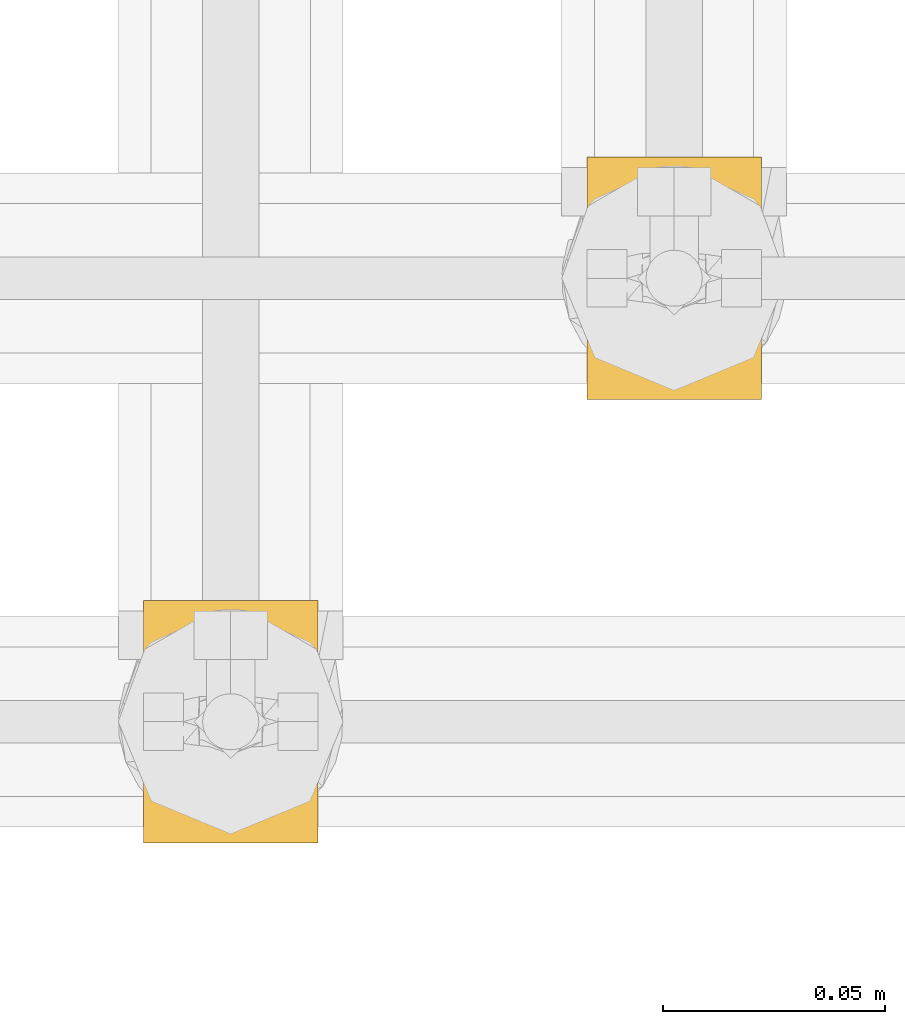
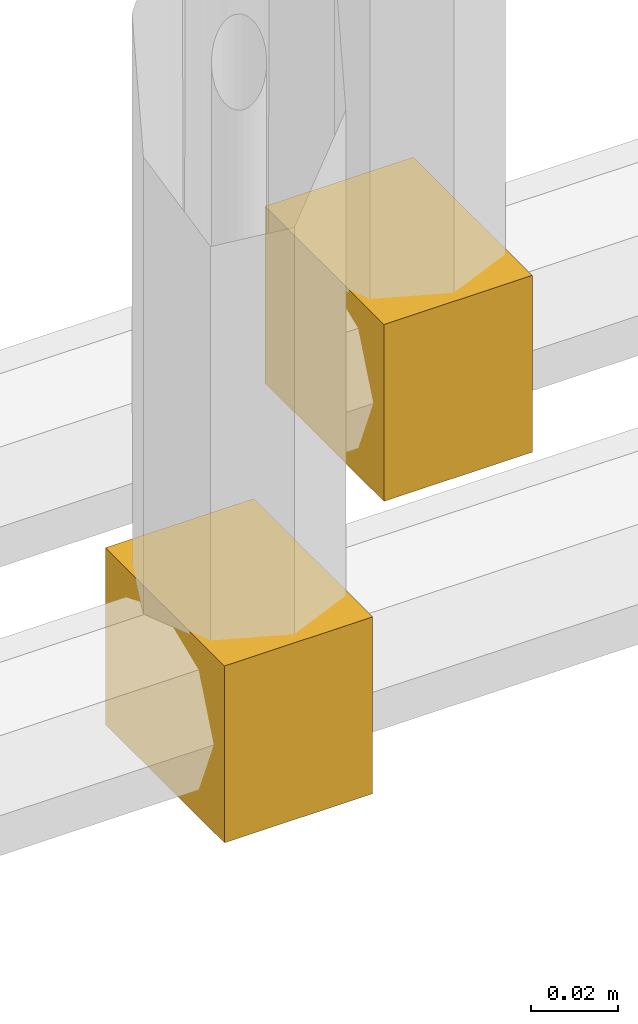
# One storey, part 71 of 652: 2 coverings.
"""IFC2X3 building model written with IfcOpenShell, lengths in millimetres."""

from ifc_helpers import new_model, entity, si_unit, converted_unit, direction, frame, frame_2d, origin, place, context, subcontext, project, spatial, rectangle, extrude, material, type_object, element, save


model = new_model("IFC2X3")

# Units and contexts
model_context = context("Model", 3, precision=0.01, world=frame((0.0, 0.0, 308426.39999999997)), true_north=direction((6.123233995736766e-17, 1.0)))
plan_context = context("Plan", 3, precision=0.01, world=frame((0.0, 0.0, 308426.39999999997)), true_north=direction((6.123233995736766e-17, 1.0)))
body_context = subcontext(model_context, "Body", "Model", "MODEL_VIEW")
ifc_project = project(units=[si_unit("LENGTHUNIT", "METRE", prefix="MILLI"), si_unit("AREAUNIT", "SQUARE_METRE"), si_unit("VOLUMEUNIT", "CUBIC_METRE"), converted_unit("PLANEANGLEUNIT", "DEGREE", entity("IfcPlaneAngleMeasure", 0.017453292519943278), si_unit("PLANEANGLEUNIT", "RADIAN"), dimensions=[0, 0, 0, 0, 0, 0, 0])], contexts=[model_context, plan_context])

# Site, building, storey
site_placement = place(None, origin())
site = spatial("IfcSite", under=ifc_project, at=site_placement, Name="Default", CompositionType="ELEMENT")
building_placement = place(site_placement, origin())
building = spatial("IfcBuilding", under=site, at=building_placement, CompositionType="ELEMENT")
storey_placement = place(building_placement, frame((0.0, 0.0, 1730.6999999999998)))
storey = spatial("IfcBuildingStorey", under=building, at=storey_placement, Name="EG_Produktion_FFB", CompositionType="ELEMENT", Elevation=1730.6999999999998)

# Coverings
ifc_material = material(Name="Dämmung - Armaflex-Schlauch")
covering_type = type_object("IfcCoveringType", Name="Rohrdämmung außen:Armaflex-Schlauch", PredefinedType="INSULATION")
covering_1_placement = place(storey_placement, origin())
element("IfcCovering", 1, at=covering_1_placement, inside=storey, type_object=covering_type, material=ifc_material, Name="Rohrdämmung außen:Armaflex-Schlauch", ObjectType="Rohrdämmung außen:Armaflex-Schlauch", PredefinedType="INSULATION", context=body_context, shape_type="SweptSolid", body=[
    extrude(rectangle(XDim=39.298500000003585, YDim=54.623999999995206, at=frame_2d((-4.330757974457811e-12, 8.663292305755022e-12), x_axis=(1.0, 0.0))), frame((40220.0, 62925.0, 2674.4659999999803)), (0.0, 0.0, 1.0), 49.5330000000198),
])
covering_2_placement = place(storey_placement, origin())
element("IfcCovering", 2, at=covering_2_placement, inside=storey, type_object=covering_type, material=ifc_material, Name="Rohrdämmung außen:Armaflex-Schlauch", ObjectType="Rohrdämmung außen:Armaflex-Schlauch", PredefinedType="INSULATION", context=body_context, shape_type="SweptSolid", body=[
    extrude(rectangle(XDim=39.298500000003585, YDim=54.623999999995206, at=frame_2d((-4.330757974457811e-12, 8.663292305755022e-12), x_axis=(1.0, 0.0))), frame((40320.0, 63025.0, 2674.4659999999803)), (0.0, 0.0, 1.0), 49.5330000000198),
])

save(model, "model.ifc")
